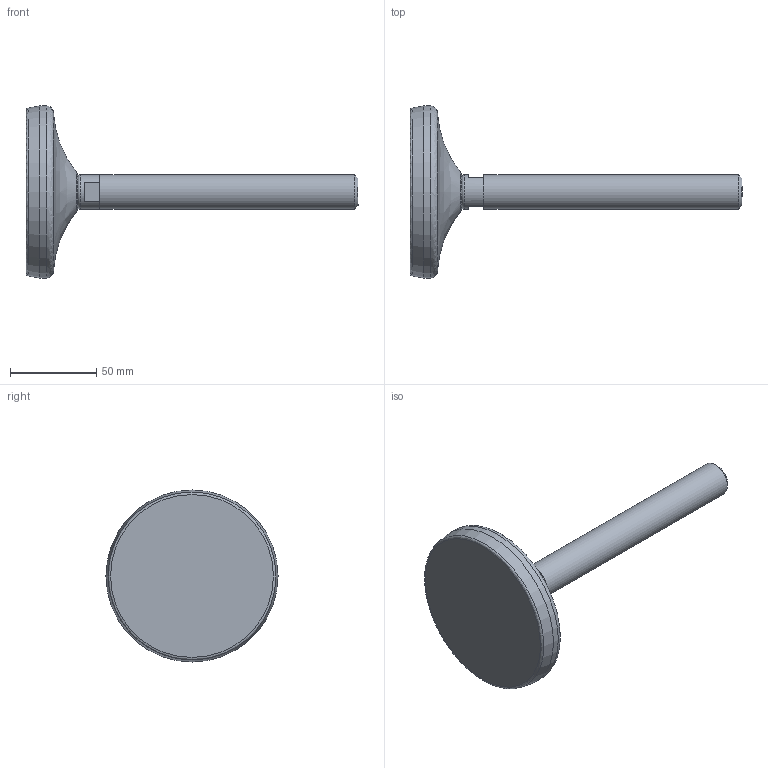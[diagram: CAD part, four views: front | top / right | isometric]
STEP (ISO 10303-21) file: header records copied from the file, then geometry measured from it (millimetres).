
FILE_DESCRIPTION(('STEP AP203'),'2;1');
FILE_NAME('25126.stp','2013-10-17T15:59:35',(''),(''),'2008.1.107','THINKDESIGN','');
FILE_SCHEMA(('CONFIG_CONTROL_DESIGN'));
Length unit declared in the file: millimetre
Bounding box: 193 x 100 x 100 mm (x, y, z)
Volume: 199590.9 mm3; surface area: 47126.9 mm2
Topology: 4 solids, 4 shells, 22 faces, 49 edges, 35 vertices
Faces by surface type: plane 12, bspline 7, cylinder 3
Full cylindrical faces by diameter (mm): 20 x2, 100 x1
Entity records: 1210 total; most frequent: CARTESIAN_POINT 610, DIRECTION 115, ORIENTED_EDGE 98, AXIS2_PLACEMENT_3D 51, EDGE_CURVE 49, CIRCLE 36, VERTEX_POINT 35, EDGE_LOOP 22
